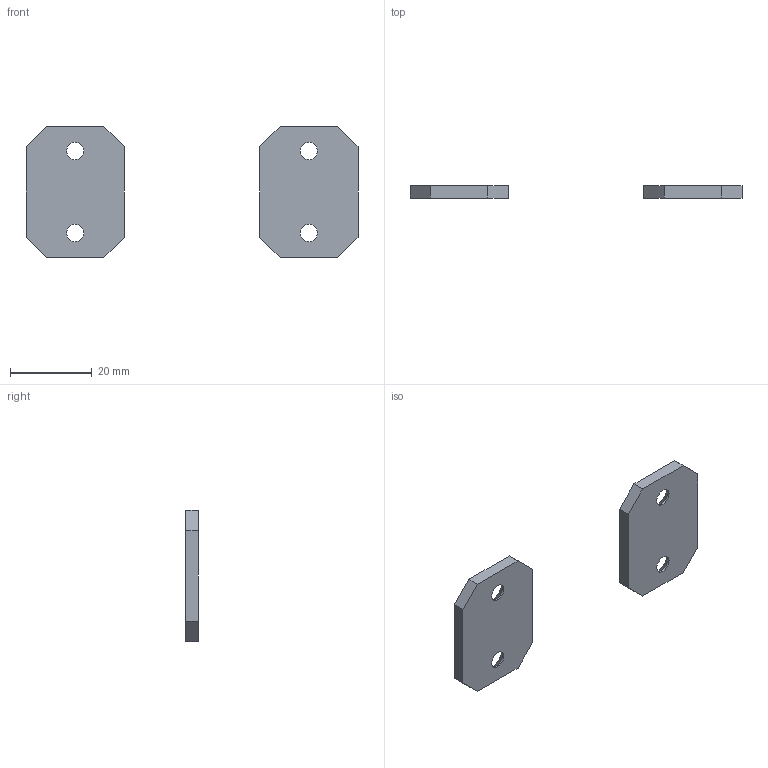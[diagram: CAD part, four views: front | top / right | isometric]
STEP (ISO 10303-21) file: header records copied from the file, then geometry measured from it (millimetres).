
FILE_DESCRIPTION(('CAx-IF Rec.Pracs.---Model Styling and Organization---1.2---2011-12-15','CAx-IF Rec.Pracs.---Geometric and Assembly Validation Properties---4.1---2014-06-16','CAx-IF Rec.Pracs.---PMI Polyline Presentation---2.0---2013-05-24'),'2;1');
FILE_NAME('R5M2WCK1-3.stp','2021-05-05T12:43:34+03:00',(''),(''),'STEP Interface 4.4 by CT CoreTechnologie','3D_Evolution4.4 by CT CoreTechnologie','');
FILE_SCHEMA(('AUTOMOTIVE_DESIGN { 1 0 10303 214 1 1 1 1 }'));
Length unit declared in the file: millimetre
Products named in the file (2): R5M2WCK1-3; RB.1512.00.00.0_-00
Assembly tree (2 placements, depth 2):
  R5M2WCK1-3
    RB.1512.00.00.0_-00  x2
Bounding box: 81 x 3 x 32 mm (x, y, z)
Surface area: 3476.5 mm2 (no closed solid volume)
Topology: 0 solids, 2 shells, 36 faces, 88 edges, 56 vertices
Faces by surface type: plane 20, bspline 8, cylinder 8
Entity records: 669 total; most frequent: CARTESIAN_POINT 145, DIRECTION 90, ORIENTED_EDGE 88, EDGE_CURVE 44, VECTOR 32, LINE 32, AXIS2_PLACEMENT_3D 29, VERTEX_POINT 28
